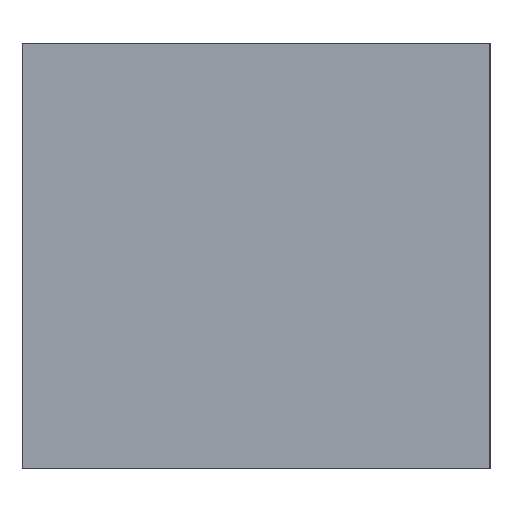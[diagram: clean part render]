
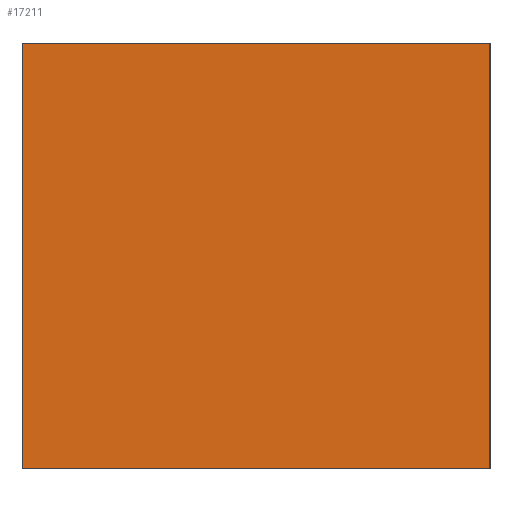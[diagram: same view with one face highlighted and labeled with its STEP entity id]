
A CAD part, left-side view. The second image highlights one B-rep face of the part: STEP entity #17211.
In plain terms, the highlighted planar face has unit normal (-1, 0, 0).
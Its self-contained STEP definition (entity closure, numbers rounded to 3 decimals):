
#426 = DIRECTION ( 'NONE',  ( 0., -1., 0. ) ) ;
#911 = CARTESIAN_POINT ( 'NONE',  ( 0., -24.75, 22.5 ) ) ;
#1500 = ORIENTED_EDGE ( 'NONE', *, *, #8479, .F. ) ;
#1557 = CARTESIAN_POINT ( 'NONE',  ( 0., 24.75, -22.5 ) ) ;
#2325 = LINE ( 'NONE', #911, #2490 ) ;
#2394 = VERTEX_POINT ( 'NONE', #8180 ) ;
#2490 = VECTOR ( 'NONE', #426, 1000. ) ;
#3314 = DIRECTION ( 'NONE',  ( 0., 0., -1. ) ) ;
#3384 = VECTOR ( 'NONE', #14924, 1000. ) ;
#3571 = LINE ( 'NONE', #15204, #3384 ) ;
#4179 = CARTESIAN_POINT ( 'NONE',  ( 0., -24.75, 22.5 ) ) ;
#4243 = EDGE_LOOP ( 'NONE', ( #8611, #1500, #4623, #14912 ) ) ;
#4623 = ORIENTED_EDGE ( 'NONE', *, *, #6374, .F. ) ;
#6374 = EDGE_CURVE ( 'NONE', #2394, #16500, #2325, .T. ) ;
#7019 = DIRECTION ( 'NONE',  ( 0., 0., 1. ) ) ;
#7824 = EDGE_CURVE ( 'NONE', #16300, #2394, #13042, .T. ) ;
#8142 = EDGE_CURVE ( 'NONE', #15692, #16300, #3571, .T. ) ;
#8180 = CARTESIAN_POINT ( 'NONE',  ( 0., 24.75, 22.5 ) ) ;
#8360 = LINE ( 'NONE', #4179, #12764 ) ;
#8479 = EDGE_CURVE ( 'NONE', #16500, #15692, #8360, .T. ) ;
#8611 = ORIENTED_EDGE ( 'NONE', *, *, #8142, .F. ) ;
#9053 = DIRECTION ( 'NONE',  ( 0., 0., 1. ) ) ;
#9073 = DIRECTION ( 'NONE',  ( -1., 0., 0. ) ) ;
#9084 = CARTESIAN_POINT ( 'NONE',  ( 0., 24.75, -22.5 ) ) ;
#9271 = PLANE ( 'NONE',  #9794 ) ;
#9794 = AXIS2_PLACEMENT_3D ( 'NONE', #9084, #9073, #9053 ) ;
#11149 = CARTESIAN_POINT ( 'NONE',  ( 0., 24.75, 22.5 ) ) ;
#11849 = CARTESIAN_POINT ( 'NONE',  ( 0., -24.75, -22.5 ) ) ;
#11989 = CARTESIAN_POINT ( 'NONE',  ( 0., -24.75, 22.5 ) ) ;
#12104 = FACE_OUTER_BOUND ( 'NONE', #4243, .T. ) ;
#12764 = VECTOR ( 'NONE', #3314, 1000. ) ;
#13042 = LINE ( 'NONE', #11149, #13058 ) ;
#13058 = VECTOR ( 'NONE', #7019, 1000. ) ;
#14912 = ORIENTED_EDGE ( 'NONE', *, *, #7824, .F. ) ;
#14924 = DIRECTION ( 'NONE',  ( 0., 1., 0. ) ) ;
#15204 = CARTESIAN_POINT ( 'NONE',  ( 0., -24.75, -22.5 ) ) ;
#15692 = VERTEX_POINT ( 'NONE', #11849 ) ;
#16300 = VERTEX_POINT ( 'NONE', #1557 ) ;
#16500 = VERTEX_POINT ( 'NONE', #11989 ) ;
#17211 = ADVANCED_FACE ( 'NONE', ( #12104 ), #9271, .T. ) ;
